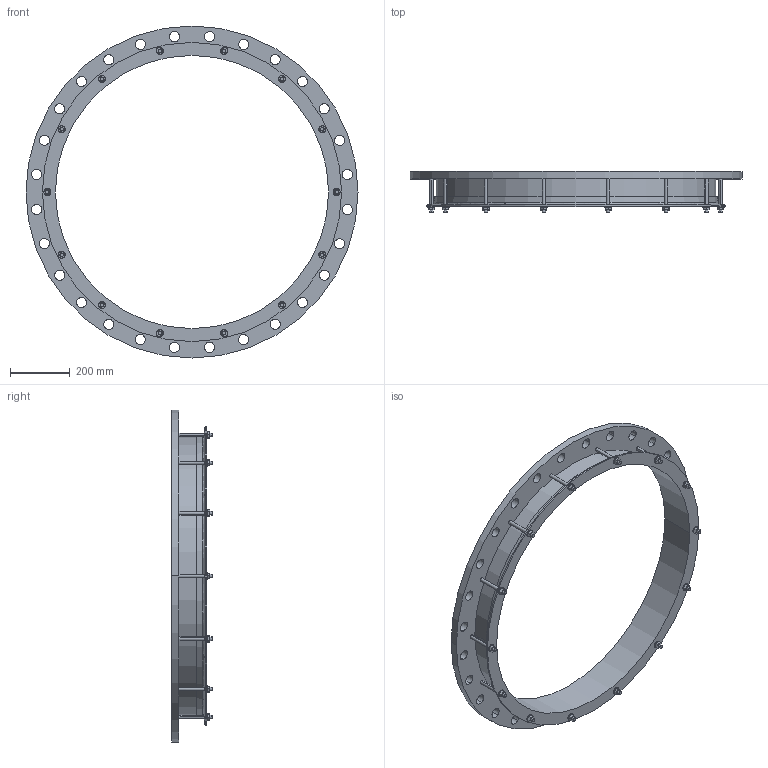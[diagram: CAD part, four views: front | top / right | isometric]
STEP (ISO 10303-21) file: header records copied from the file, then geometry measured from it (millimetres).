
FILE_DESCRIPTION((''),'2;1');
FILE_NAME('914X900PN10','2019-01-16T',('mfairey'),('Glynwed Pipe Systems'),'CREO PARAMETRIC BY PTC INC, 2016130','CREO PARAMETRIC BY PTC INC, 2016130','');
FILE_SCHEMA(('CONFIG_CONTROL_DESIGN'));
Length unit declared in the file: millimetre
Products named in the file (1): 914X900PN10
Bounding box: 1115 x 137.45 x 1115 mm (x, y, z)
Volume: 11540101.8 mm3; surface area: 1592615.4 mm2
Topology: 1 solids, 1 shells, 284 faces, 752 edges, 500 vertices
Faces by surface type: cylinder 148, plane 130, cone 4, torus 2
Entity records: 9938 total; most frequent: CARTESIAN_POINT 2492, DIRECTION 1548, ORIENTED_EDGE 1504, EDGE_CURVE 752, AXIS2_PLACEMENT_3D 572, VERTEX_POINT 500, VECTOR 404, LINE 404
